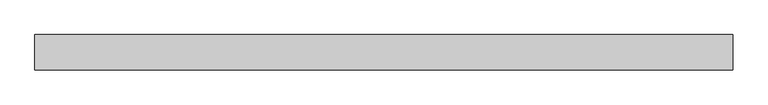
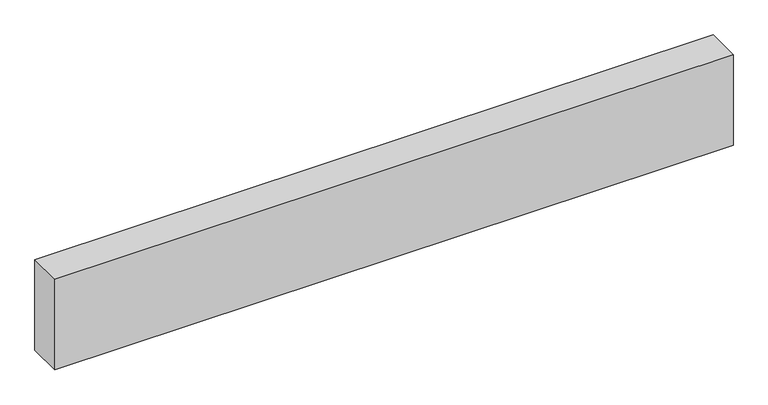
"""IFC4 building model written with IfcOpenShell, lengths in millimetres: plate geometry, Системная панель : Алюкобонд серый."""

from ifc_helpers import new_model, si_unit, origin, origin_with_axes, place, context, project, spatial, polyline, outline, extrude, source, transform, mapped, element, save


def plate_adf05f04(model_context):
    return source(origin(), model_context, "Body", "SweptSolid", [
        extrude(outline(polyline([(590.0, -49.5), (-590.0, -49.5), (-590.0, 10.5), (590.0, 10.5), (590.0, -49.5)])), origin_with_axes(), (0.0, 0.0, 1.0), 166.4659379),
    ])


if __name__ == "__main__":
    model = new_model("IFC4")
    model_context = context("Model", 3, world=origin())
    ifc_project = project(units=[si_unit("LENGTHUNIT", "METRE", prefix="MILLI")], contexts=[model_context])
    site = spatial("IfcSite", under=ifc_project)
    building = spatial("IfcBuilding", under=site)
    placement = place(None, origin())
    plate_shape = plate_adf05f04(model_context)
    element("IfcPlate", 1, ObjectType="Системная панель : Алюкобонд серый", at=placement, inside=building, context=model_context, shape_type="MappedRepresentation", body=[
        mapped(plate_shape, transform((0.0, 0.0, 0.0), x_axis=(1.0, 0.0, 0.0), y_axis=(0.0, 1.0, 0.0), z_axis=(0.0, 0.0, 1.0))),
    ])
    save(model, "model.ifc")
